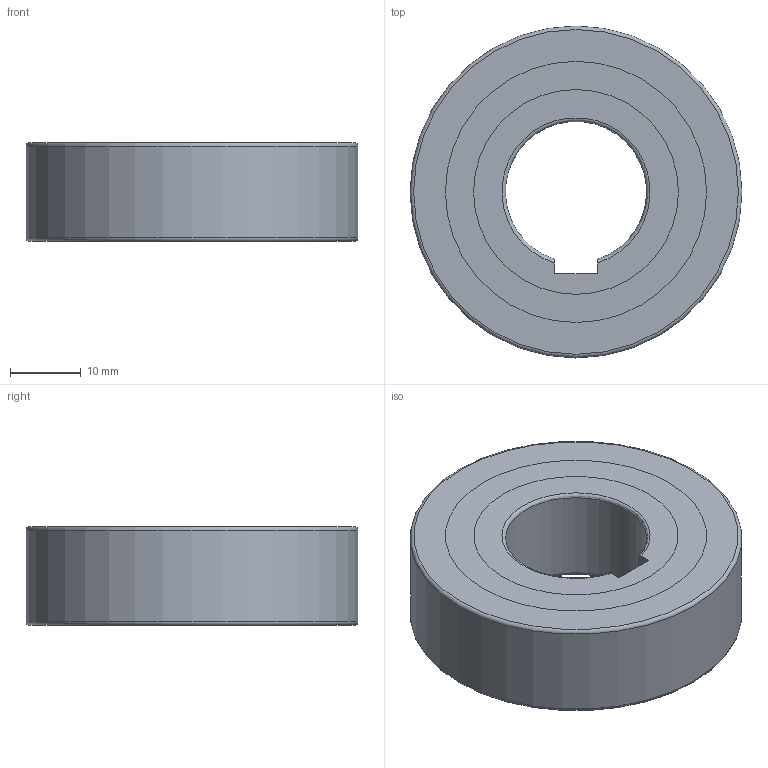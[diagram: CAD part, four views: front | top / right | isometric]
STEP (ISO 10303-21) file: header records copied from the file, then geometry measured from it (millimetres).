
FILE_DESCRIPTION(/* description */ (''),/* implementation_level */ '2;1');
FILE_NAME(/* name */ '301125 FKN 624-2RS.stp',/* time_stamp */ '2016-11-24T09:12:33+01:00',/* author */ (''),/* organization */ (''),/* preprocessor_version */ 'ST-DEVELOPER v15',/* originating_system */ 'SIEMENS PLM Software NX 8.5',/* authorisation */ '');
FILE_SCHEMA (('CONFIG_CONTROL_DESIGN'));
Length unit declared in the file: millimetre
Products named in the file (3): ATE0000079_01; ATE0000110_01; ATE0000111_01
Assembly tree (2 placements, depth 2):
  ATE0000111_01
    ATE0000110_01
    ATE0000079_01
Bounding box: 47 x 47 x 14 mm (x, y, z)
Volume: 16902.7 mm3; surface area: 11689.2 mm2
Topology: 4 solids, 4 shells, 75 faces, 167 edges, 110 vertices
Faces by surface type: plane 47, cylinder 22, torus 6
Full cylindrical faces by diameter (mm): 29 x4, 33 x1, 35 x1, 36 x2, 37 x4, 47 x1
Entity records: 2320 total; most frequent: CARTESIAN_POINT 390, DIRECTION 358, ORIENTED_EDGE 284, EDGE_CURVE 142, AXIS2_PLACEMENT_3D 142, EDGE_LOOP 112, VERTEX_POINT 104, ADVANCED_FACE 75
